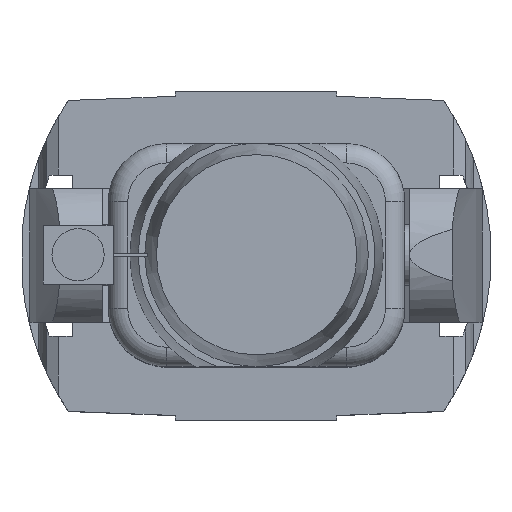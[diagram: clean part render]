
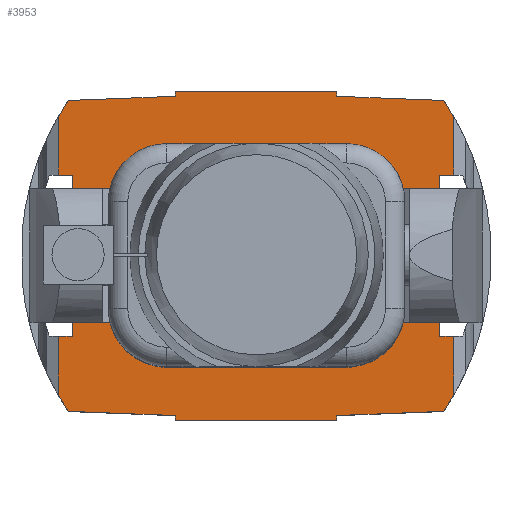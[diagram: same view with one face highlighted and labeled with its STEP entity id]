
A CAD part, top view. The second image highlights one B-rep face of the part: STEP entity #3953.
In plain terms, the highlighted planar face has unit normal (0, 0, 1).
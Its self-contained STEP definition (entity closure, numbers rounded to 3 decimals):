
#242=CIRCLE('',#4306,25.);
#243=CIRCLE('',#4307,286.325);
#244=CIRCLE('',#4308,286.325);
#245=CIRCLE('',#4309,286.325);
#246=CIRCLE('',#4310,286.325);
#519=ORIENTED_EDGE('',*,*,#1584,.T.);
#520=ORIENTED_EDGE('',*,*,#1585,.F.);
#521=ORIENTED_EDGE('',*,*,#1586,.F.);
#522=ORIENTED_EDGE('',*,*,#1462,.F.);
#523=ORIENTED_EDGE('',*,*,#1587,.F.);
#524=ORIENTED_EDGE('',*,*,#1588,.F.);
#525=ORIENTED_EDGE('',*,*,#1589,.F.);
#526=ORIENTED_EDGE('',*,*,#1547,.T.);
#527=ORIENTED_EDGE('',*,*,#1544,.F.);
#528=ORIENTED_EDGE('',*,*,#1535,.F.);
#529=ORIENTED_EDGE('',*,*,#1539,.T.);
#530=ORIENTED_EDGE('',*,*,#1590,.F.);
#531=ORIENTED_EDGE('',*,*,#1591,.T.);
#532=ORIENTED_EDGE('',*,*,#1592,.T.);
#533=ORIENTED_EDGE('',*,*,#1593,.T.);
#534=ORIENTED_EDGE('',*,*,#1594,.T.);
#535=ORIENTED_EDGE('',*,*,#1595,.T.);
#536=ORIENTED_EDGE('',*,*,#1596,.T.);
#537=ORIENTED_EDGE('',*,*,#1597,.T.);
#538=ORIENTED_EDGE('',*,*,#1598,.T.);
#539=ORIENTED_EDGE('',*,*,#1517,.T.);
#540=ORIENTED_EDGE('',*,*,#1521,.F.);
#541=ORIENTED_EDGE('',*,*,#1542,.F.);
#542=ORIENTED_EDGE('',*,*,#1582,.F.);
#543=ORIENTED_EDGE('',*,*,#1599,.F.);
#1462=EDGE_CURVE('',#2017,#2014,#2404,.T.);
#1517=EDGE_CURVE('',#2071,#2070,#2431,.T.);
#1521=EDGE_CURVE('',#2072,#2070,#2435,.T.);
#1535=EDGE_CURVE('',#2085,#2086,#2439,.T.);
#1539=EDGE_CURVE('',#2085,#2087,#2443,.T.);
#1542=EDGE_CURVE('',#2088,#2072,#2446,.T.);
#1544=EDGE_CURVE('',#2086,#2089,#2448,.T.);
#1547=EDGE_CURVE('',#2091,#2089,#2451,.T.);
#1582=EDGE_CURVE('',#2111,#2088,#2471,.T.);
#1584=EDGE_CURVE('',#2112,#2112,#242,.T.);
#1585=EDGE_CURVE('',#2113,#2114,#2472,.T.);
#1586=EDGE_CURVE('',#2014,#2113,#2473,.T.);
#1587=EDGE_CURVE('',#2115,#2017,#2474,.T.);
#1588=EDGE_CURVE('',#2116,#2115,#2475,.T.);
#1589=EDGE_CURVE('',#2091,#2116,#243,.T.);
#1590=EDGE_CURVE('',#2117,#2087,#2476,.T.);
#1591=EDGE_CURVE('',#2117,#2118,#244,.T.);
#1592=EDGE_CURVE('',#2118,#2119,#2477,.T.);
#1593=EDGE_CURVE('',#2119,#2120,#2478,.T.);
#1594=EDGE_CURVE('',#2120,#2121,#2479,.T.);
#1595=EDGE_CURVE('',#2121,#2122,#2480,.T.);
#1596=EDGE_CURVE('',#2122,#2123,#2481,.T.);
#1597=EDGE_CURVE('',#2123,#2124,#245,.T.);
#1598=EDGE_CURVE('',#2124,#2071,#2482,.T.);
#1599=EDGE_CURVE('',#2114,#2111,#246,.T.);
#2014=VERTEX_POINT('',#5867);
#2017=VERTEX_POINT('',#5872);
#2070=VERTEX_POINT('',#6005);
#2071=VERTEX_POINT('',#6007);
#2072=VERTEX_POINT('',#6012);
#2085=VERTEX_POINT('',#6063);
#2086=VERTEX_POINT('',#6065);
#2087=VERTEX_POINT('',#6070);
#2088=VERTEX_POINT('',#6075);
#2089=VERTEX_POINT('',#6080);
#2091=VERTEX_POINT('',#6086);
#2111=VERTEX_POINT('',#6175);
#2112=VERTEX_POINT('',#6179);
#2113=VERTEX_POINT('',#6181);
#2114=VERTEX_POINT('',#6182);
#2115=VERTEX_POINT('',#6185);
#2116=VERTEX_POINT('',#6187);
#2117=VERTEX_POINT('',#6190);
#2118=VERTEX_POINT('',#6192);
#2119=VERTEX_POINT('',#6194);
#2120=VERTEX_POINT('',#6196);
#2121=VERTEX_POINT('',#6198);
#2122=VERTEX_POINT('',#6200);
#2123=VERTEX_POINT('',#6202);
#2124=VERTEX_POINT('',#6204);
#2404=LINE('',#5873,#2756);
#2431=LINE('',#6006,#2783);
#2435=LINE('',#6013,#2787);
#2439=LINE('',#6064,#2791);
#2443=LINE('',#6071,#2795);
#2446=LINE('',#6076,#2798);
#2448=LINE('',#6079,#2800);
#2451=LINE('',#6085,#2803);
#2471=LINE('',#6174,#2823);
#2472=LINE('',#6180,#2824);
#2473=LINE('',#6183,#2825);
#2474=LINE('',#6184,#2826);
#2475=LINE('',#6186,#2827);
#2476=LINE('',#6189,#2828);
#2477=LINE('',#6193,#2829);
#2478=LINE('',#6195,#2830);
#2479=LINE('',#6197,#2831);
#2480=LINE('',#6199,#2832);
#2481=LINE('',#6201,#2833);
#2482=LINE('',#6205,#2834);
#2756=VECTOR('',#4676,1000.);
#2783=VECTOR('',#4757,1000.);
#2787=VECTOR('',#4763,1000.);
#2791=VECTOR('',#4783,1000.);
#2795=VECTOR('',#4789,1000.);
#2798=VECTOR('',#4794,1000.);
#2800=VECTOR('',#4798,1000.);
#2803=VECTOR('',#4803,1000.);
#2823=VECTOR('',#4871,1000.);
#2824=VECTOR('',#4878,1000.);
#2825=VECTOR('',#4879,1000.);
#2826=VECTOR('',#4880,1000.);
#2827=VECTOR('',#4881,1000.);
#2828=VECTOR('',#4884,1000.);
#2829=VECTOR('',#4887,1000.);
#2830=VECTOR('',#4888,1000.);
#2831=VECTOR('',#4889,1000.);
#2832=VECTOR('',#4890,1000.);
#2833=VECTOR('',#4891,1000.);
#2834=VECTOR('',#4894,1000.);
#3142=EDGE_LOOP('',(#519));
#3143=EDGE_LOOP('',(#520,#521,#522,#523,#524,#525,#526,#527,#528,#529,#530,
#531,#532,#533,#534,#535,#536,#537,#538,#539,#540,#541,#542,#543));
#3474=FACE_BOUND('',#3142,.T.);
#3475=FACE_BOUND('',#3143,.T.);
#3780=PLANE('',#4305);
#3953=ADVANCED_FACE('',(#3474,#3475),#3780,.F.);
#4305=AXIS2_PLACEMENT_3D('',#6177,#4874,#4875);
#4306=AXIS2_PLACEMENT_3D('',#6178,#4876,#4877);
#4307=AXIS2_PLACEMENT_3D('',#6188,#4882,#4883);
#4308=AXIS2_PLACEMENT_3D('',#6191,#4885,#4886);
#4309=AXIS2_PLACEMENT_3D('',#6203,#4892,#4893);
#4310=AXIS2_PLACEMENT_3D('',#6206,#4895,#4896);
#4676=DIRECTION('',(-1.,0.,0.));
#4757=DIRECTION('',(1.,0.,0.));
#4763=DIRECTION('',(0.,1.,0.));
#4783=DIRECTION('',(0.,-1.,0.));
#4789=DIRECTION('',(1.,0.,0.));
#4794=DIRECTION('',(1.,0.,0.));
#4798=DIRECTION('',(1.,0.,0.));
#4803=DIRECTION('',(0.,1.,0.));
#4871=DIRECTION('',(0.,1.,0.));
#4874=DIRECTION('',(0.,0.,-1.));
#4875=DIRECTION('',(-1.,0.,0.));
#4876=DIRECTION('',(0.,0.,-1.));
#4877=DIRECTION('',(-1.,0.,0.));
#4878=DIRECTION('',(-0.999,0.039,0.));
#4879=DIRECTION('',(0.,1.,0.));
#4880=DIRECTION('',(0.,-1.,0.));
#4881=DIRECTION('',(-0.999,-0.039,0.));
#4882=DIRECTION('',(0.,0.,-1.));
#4883=DIRECTION('',(-1.,0.,0.));
#4884=DIRECTION('',(0.,-1.,0.));
#4885=DIRECTION('',(0.,0.,1.));
#4886=DIRECTION('',(1.,0.,0.));
#4887=DIRECTION('',(-0.999,0.039,0.));
#4888=DIRECTION('',(0.,1.,0.));
#4889=DIRECTION('',(-1.,0.,0.));
#4890=DIRECTION('',(0.,-1.,0.));
#4891=DIRECTION('',(-0.999,-0.039,0.));
#4892=DIRECTION('',(0.,0.,1.));
#4893=DIRECTION('',(1.,0.,0.));
#4894=DIRECTION('',(0.,-1.,0.));
#4895=DIRECTION('',(0.,0.,-1.));
#4896=DIRECTION('',(-1.,0.,0.));
#5867=CARTESIAN_POINT('',(-83.303,-169.654,102.853));
#5872=CARTESIAN_POINT('',(83.303,-169.654,102.853));
#5873=CARTESIAN_POINT('',(-83.303,-169.654,102.853));
#6005=CARTESIAN_POINT('',(-189.287,83.367,102.853));
#6006=CARTESIAN_POINT('',(-212.646,83.367,102.853));
#6007=CARTESIAN_POINT('',(-203.675,83.367,102.853));
#6012=CARTESIAN_POINT('',(-189.287,-82.964,102.853));
#6013=CARTESIAN_POINT('',(-189.287,83.367,102.853));
#6063=CARTESIAN_POINT('',(189.287,83.367,102.853));
#6064=CARTESIAN_POINT('',(189.287,83.367,102.853));
#6065=CARTESIAN_POINT('',(189.287,-82.964,102.853));
#6070=CARTESIAN_POINT('',(203.675,83.367,102.853));
#6071=CARTESIAN_POINT('',(212.646,83.367,102.853));
#6075=CARTESIAN_POINT('',(-203.675,-82.964,102.853));
#6076=CARTESIAN_POINT('',(-212.646,-82.964,102.853));
#6079=CARTESIAN_POINT('',(212.646,-82.964,102.853));
#6080=CARTESIAN_POINT('',(203.675,-82.964,102.853));
#6085=CARTESIAN_POINT('',(203.675,-602.76,102.853));
#6086=CARTESIAN_POINT('',(203.675,-143.751,102.853));
#6174=CARTESIAN_POINT('',(-203.675,-602.76,102.853));
#6175=CARTESIAN_POINT('',(-203.675,-143.751,102.853));
#6177=CARTESIAN_POINT('',(203.675,-602.76,102.853));
#6178=CARTESIAN_POINT('',(0.,0.,102.853));
#6179=CARTESIAN_POINT('',(-25.,0.,102.853));
#6180=CARTESIAN_POINT('',(-193.314,-160.277,102.853));
#6181=CARTESIAN_POINT('',(-83.303,-164.605,102.853));
#6182=CARTESIAN_POINT('',(-193.314,-160.277,102.853));
#6183=CARTESIAN_POINT('',(-83.303,-164.605,102.853));
#6184=CARTESIAN_POINT('',(83.303,-164.605,102.853));
#6185=CARTESIAN_POINT('',(83.303,-164.605,102.853));
#6186=CARTESIAN_POINT('',(193.314,-160.277,102.853));
#6187=CARTESIAN_POINT('',(193.314,-160.277,102.853));
#6188=CARTESIAN_POINT('',(-43.959,-0.017,102.853));
#6189=CARTESIAN_POINT('',(203.675,602.76,102.853));
#6190=CARTESIAN_POINT('',(203.675,143.718,102.853));
#6191=CARTESIAN_POINT('',(-43.959,-0.017,102.853));
#6192=CARTESIAN_POINT('',(193.296,160.271,102.853));
#6193=CARTESIAN_POINT('',(193.296,160.271,102.853));
#6194=CARTESIAN_POINT('',(83.303,164.605,102.853));
#6195=CARTESIAN_POINT('',(83.303,164.605,102.853));
#6196=CARTESIAN_POINT('',(83.303,169.654,102.853));
#6197=CARTESIAN_POINT('',(-83.303,169.654,102.853));
#6198=CARTESIAN_POINT('',(-83.303,169.654,102.853));
#6199=CARTESIAN_POINT('',(-83.303,164.605,102.853));
#6200=CARTESIAN_POINT('',(-83.303,164.605,102.853));
#6201=CARTESIAN_POINT('',(-193.296,160.271,102.853));
#6202=CARTESIAN_POINT('',(-193.296,160.271,102.853));
#6203=CARTESIAN_POINT('',(43.959,-0.017,102.853));
#6204=CARTESIAN_POINT('',(-203.675,143.718,102.853));
#6205=CARTESIAN_POINT('',(-203.675,602.76,102.853));
#6206=CARTESIAN_POINT('',(43.959,-0.017,102.853));
